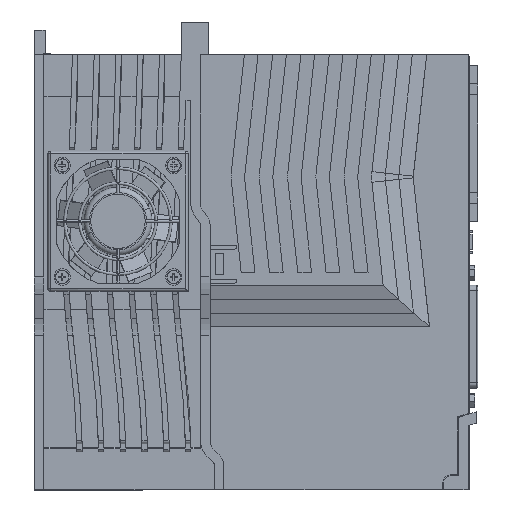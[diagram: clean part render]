
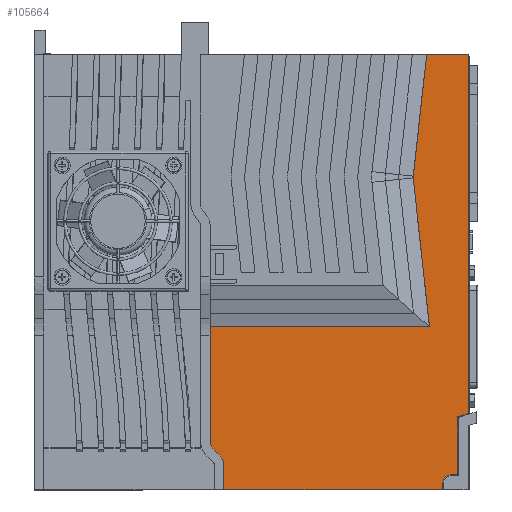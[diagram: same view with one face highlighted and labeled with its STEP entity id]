
A CAD part, top view. The second image highlights one B-rep face of the part: STEP entity #105664.
In plain terms, the highlighted planar face has unit normal (0, 0, 1).
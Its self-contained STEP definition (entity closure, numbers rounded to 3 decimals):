
#575 = CIRCLE ( 'NONE', #43142, 2.718 ) ;
#1021 = CARTESIAN_POINT ( 'NONE',  ( -15.4, 0., 41. ) ) ;
#1074 = CARTESIAN_POINT ( 'NONE',  ( -12.055, -67.01, 41. ) ) ;
#2867 = PLANE ( 'NONE',  #49525 ) ;
#3671 = EDGE_CURVE ( 'NONE', #104728, #73747, #62081, .T. ) ;
#6831 = ORIENTED_EDGE ( 'NONE', *, *, #120285, .T. ) ;
#8740 = DIRECTION ( 'NONE',  ( 0., 1., 0. ) ) ;
#8949 = VERTEX_POINT ( 'NONE', #106047 ) ;
#10354 = LINE ( 'NONE', #85360, #102690 ) ;
#10487 = EDGE_CURVE ( 'NONE', #31022, #114024, #66364, .T. ) ;
#10973 = CARTESIAN_POINT ( 'NONE',  ( -10.4, -70.727, 41. ) ) ;
#16931 = CARTESIAN_POINT ( 'NONE',  ( 79.5, -51.75, 41. ) ) ;
#17546 = VECTOR ( 'NONE', #132038, 1000. ) ;
#18181 = LINE ( 'NONE', #30817, #130625 ) ;
#18670 = VERTEX_POINT ( 'NONE', #16931 ) ;
#19696 = CIRCLE ( 'NONE', #48942, 5. ) ;
#20155 = VERTEX_POINT ( 'NONE', #31338 ) ;
#20541 = LINE ( 'NONE', #33218, #94996 ) ;
#20997 = VERTEX_POINT ( 'NONE', #10973 ) ;
#21307 = CARTESIAN_POINT ( 'NONE',  ( 59.311, 35.298, 41. ) ) ;
#22063 = DIRECTION ( 'NONE',  ( 1., 0., 0. ) ) ;
#22625 = DIRECTION ( 'NONE',  ( -1., 0., 0. ) ) ;
#24667 = VECTOR ( 'NONE', #137249, 1000. ) ;
#28885 = EDGE_CURVE ( 'NONE', #18670, #29722, #84033, .T. ) ;
#29589 = EDGE_CURVE ( 'NONE', #136265, #126577, #18181, .T. ) ;
#29722 = VERTEX_POINT ( 'NONE', #134953 ) ;
#30817 = CARTESIAN_POINT ( 'NONE',  ( -19., -80., 41. ) ) ;
#31022 = VERTEX_POINT ( 'NONE', #76001 ) ;
#31102 = CARTESIAN_POINT ( 'NONE',  ( 65.278, -20., 41. ) ) ;
#31338 = CARTESIAN_POINT ( 'NONE',  ( 64.278, 80., 41. ) ) ;
#32237 = EDGE_CURVE ( 'NONE', #29722, #20155, #20541, .T. ) ;
#32411 = CARTESIAN_POINT ( 'NONE',  ( 0., 0., 41. ) ) ;
#33218 = CARTESIAN_POINT ( 'NONE',  ( 80., 80., 41. ) ) ;
#34193 = VECTOR ( 'NONE', #84785, 1000. ) ;
#34496 = FACE_OUTER_BOUND ( 'NONE', #70599, .T. ) ;
#35016 = CARTESIAN_POINT ( 'NONE',  ( -15.4, -70.727, 41. ) ) ;
#36249 = EDGE_CURVE ( 'NONE', #114024, #8949, #98109, .T. ) ;
#36509 = CARTESIAN_POINT ( 'NONE',  ( -38.715, -43.017, 41. ) ) ;
#37627 = DIRECTION ( 'NONE',  ( -1., 0., 0. ) ) ;
#38397 = ORIENTED_EDGE ( 'NONE', *, *, #51893, .F. ) ;
#39013 = LINE ( 'NONE', #46767, #73756 ) ;
#40733 = CARTESIAN_POINT ( 'NONE',  ( -10.4, 0., 41. ) ) ;
#42354 = EDGE_CURVE ( 'NONE', #8949, #126577, #138614, .T. ) ;
#42395 = ORIENTED_EDGE ( 'NONE', *, *, #130927, .F. ) ;
#42946 = ORIENTED_EDGE ( 'NONE', *, *, #42354, .F. ) ;
#43142 = AXIS2_PLACEMENT_3D ( 'NONE', #44236, #117002, #63216 ) ;
#43259 = CARTESIAN_POINT ( 'NONE',  ( 73.417, -77.765, 41. ) ) ;
#44236 = CARTESIAN_POINT ( 'NONE',  ( 62.012, 34.998, 41. ) ) ;
#44856 = CARTESIAN_POINT ( 'NONE',  ( 70.117, -77.765, 41. ) ) ;
#46767 = CARTESIAN_POINT ( 'NONE',  ( 66., -20., 41. ) ) ;
#47597 = DIRECTION ( 'NONE',  ( 0., 0., -1. ) ) ;
#47869 = CARTESIAN_POINT ( 'NONE',  ( -10.4, -80., 41. ) ) ;
#48705 = EDGE_CURVE ( 'NONE', #20155, #106429, #109300, .T. ) ;
#48942 = AXIS2_PLACEMENT_3D ( 'NONE', #75360, #118002, #22063 ) ;
#49028 = ORIENTED_EDGE ( 'NONE', *, *, #114582, .T. ) ;
#49263 = VERTEX_POINT ( 'NONE', #31102 ) ;
#49361 = ORIENTED_EDGE ( 'NONE', *, *, #32237, .T. ) ;
#49525 = AXIS2_PLACEMENT_3D ( 'NONE', #32411, #97531, #107335 ) ;
#51801 = DIRECTION ( 'NONE',  ( 0.108, -0.994, 0. ) ) ;
#51893 = EDGE_CURVE ( 'NONE', #82267, #31022, #64542, .T. ) ;
#52435 = VERTEX_POINT ( 'NONE', #55619 ) ;
#53294 = ORIENTED_EDGE ( 'NONE', *, *, #28885, .T. ) ;
#54300 = AXIS2_PLACEMENT_3D ( 'NONE', #35016, #47597, #88919 ) ;
#54904 = ORIENTED_EDGE ( 'NONE', *, *, #132504, .T. ) ;
#55619 = CARTESIAN_POINT ( 'NONE',  ( -13.745, -65.49, 41. ) ) ;
#57928 = VECTOR ( 'NONE', #107914, 1000. ) ;
#59973 = VECTOR ( 'NONE', #79223, 1000. ) ;
#60071 = VECTOR ( 'NONE', #116695, 1000. ) ;
#62081 = LINE ( 'NONE', #1021, #82364 ) ;
#62937 = DIRECTION ( 'NONE',  ( 0., 0., 1. ) ) ;
#63216 = DIRECTION ( 'NONE',  ( 1., 0., 0. ) ) ;
#64262 = LINE ( 'NONE', #73357, #60071 ) ;
#64542 = LINE ( 'NONE', #73629, #110078 ) ;
#66364 = LINE ( 'NONE', #90119, #17546 ) ;
#68704 = VERTEX_POINT ( 'NONE', #126219 ) ;
#70599 = EDGE_LOOP ( 'NONE', ( #42946, #107831, #100257, #38397, #42395, #125445, #53294, #49361, #97347, #54904, #85123, #49028, #100857, #75272, #128786, #6831, #72122, #77847 ) ) ;
#71343 = VECTOR ( 'NONE', #120437, 1000. ) ;
#72122 = ORIENTED_EDGE ( 'NONE', *, *, #104038, .F. ) ;
#73357 = CARTESIAN_POINT ( 'NONE',  ( 79.5, 0., 41. ) ) ;
#73629 = CARTESIAN_POINT ( 'NONE',  ( 75.697, -53.363, 41. ) ) ;
#73747 = VERTEX_POINT ( 'NONE', #119443 ) ;
#73756 = VECTOR ( 'NONE', #37627, 1000. ) ;
#75272 = ORIENTED_EDGE ( 'NONE', *, *, #124317, .F. ) ;
#75360 = CARTESIAN_POINT ( 'NONE',  ( -10.4, -61.773, 41. ) ) ;
#76001 = CARTESIAN_POINT ( 'NONE',  ( 75.697, -74.465, 41. ) ) ;
#77847 = ORIENTED_EDGE ( 'NONE', *, *, #29589, .T. ) ;
#79223 = DIRECTION ( 'NONE',  ( -0.743, 0.669, 0. ) ) ;
#82267 = VERTEX_POINT ( 'NONE', #103789 ) ;
#82364 = VECTOR ( 'NONE', #8740, 1000. ) ;
#83572 = CARTESIAN_POINT ( 'NONE',  ( 70.117, -80., 41. ) ) ;
#84033 = LINE ( 'NONE', #116849, #132568 ) ;
#84142 = CARTESIAN_POINT ( 'NONE',  ( 82.45, -50.987, 41. ) ) ;
#84785 = DIRECTION ( 'NONE',  ( 0., -1., 0. ) ) ;
#85123 = ORIENTED_EDGE ( 'NONE', *, *, #104250, .T. ) ;
#85360 = CARTESIAN_POINT ( 'NONE',  ( 59.286, 34.922, 41. ) ) ;
#86218 = LINE ( 'NONE', #84142, #57928 ) ;
#88919 = DIRECTION ( 'NONE',  ( 1., 0., 0. ) ) ;
#90119 = CARTESIAN_POINT ( 'NONE',  ( 75.997, -74.465, 41. ) ) ;
#91405 = AXIS2_PLACEMENT_3D ( 'NONE', #43259, #62937, #117420 ) ;
#94996 = VECTOR ( 'NONE', #22625, 1000. ) ;
#95250 = DIRECTION ( 'NONE',  ( 1., 0., 0. ) ) ;
#96373 = EDGE_CURVE ( 'NONE', #111110, #52435, #132338, .T. ) ;
#96749 = LINE ( 'NONE', #40733, #24667 ) ;
#96860 = EDGE_CURVE ( 'NONE', #18670, #125942, #64262, .T. ) ;
#97347 = ORIENTED_EDGE ( 'NONE', *, *, #48705, .T. ) ;
#97531 = DIRECTION ( 'NONE',  ( 0., 0., 1. ) ) ;
#98109 = CIRCLE ( 'NONE', #91405, 3.3 ) ;
#100257 = ORIENTED_EDGE ( 'NONE', *, *, #10487, .F. ) ;
#100857 = ORIENTED_EDGE ( 'NONE', *, *, #3671, .F. ) ;
#102690 = VECTOR ( 'NONE', #51801, 1000. ) ;
#103444 = CIRCLE ( 'NONE', #54300, 5. ) ;
#103789 = CARTESIAN_POINT ( 'NONE',  ( 75.697, -53.144, 41. ) ) ;
#104038 = EDGE_CURVE ( 'NONE', #136265, #20997, #96749, .T. ) ;
#104250 = EDGE_CURVE ( 'NONE', #68704, #49263, #10354, .T. ) ;
#104728 = VERTEX_POINT ( 'NONE', #105237 ) ;
#105237 = CARTESIAN_POINT ( 'NONE',  ( -15.4, -61.773, 41. ) ) ;
#105664 = ADVANCED_FACE ( 'NONE', ( #34496 ), #2867, .T. ) ;
#106047 = CARTESIAN_POINT ( 'NONE',  ( 70.117, -77.765, 41. ) ) ;
#106429 = VERTEX_POINT ( 'NONE', #21307 ) ;
#107128 = DIRECTION ( 'NONE',  ( 0., 1., 0. ) ) ;
#107335 = DIRECTION ( 'NONE',  ( 1., 0., 0. ) ) ;
#107831 = ORIENTED_EDGE ( 'NONE', *, *, #36249, .F. ) ;
#107914 = DIRECTION ( 'NONE',  ( -0.953, -0.304, 0. ) ) ;
#109300 = LINE ( 'NONE', #117667, #71343 ) ;
#110078 = VECTOR ( 'NONE', #116278, 1000. ) ;
#111110 = VERTEX_POINT ( 'NONE', #1074 ) ;
#114024 = VERTEX_POINT ( 'NONE', #128446 ) ;
#114582 = EDGE_CURVE ( 'NONE', #49263, #73747, #39013, .T. ) ;
#116278 = DIRECTION ( 'NONE',  ( 0., -1., 0. ) ) ;
#116695 = DIRECTION ( 'NONE',  ( 0., -1., 0. ) ) ;
#116849 = CARTESIAN_POINT ( 'NONE',  ( 79.5, 80., 41. ) ) ;
#117002 = DIRECTION ( 'NONE',  ( 0., 0., 1. ) ) ;
#117420 = DIRECTION ( 'NONE',  ( 1., 0., 0. ) ) ;
#117667 = CARTESIAN_POINT ( 'NONE',  ( 64.287, 80.079, 41. ) ) ;
#118002 = DIRECTION ( 'NONE',  ( 0., 0., -1. ) ) ;
#119443 = CARTESIAN_POINT ( 'NONE',  ( -15.4, -20., 41. ) ) ;
#120285 = EDGE_CURVE ( 'NONE', #111110, #20997, #103444, .T. ) ;
#120437 = DIRECTION ( 'NONE',  ( -0.11, -0.994, 0. ) ) ;
#122561 = CARTESIAN_POINT ( 'NONE',  ( 79.5, -51.929, 41. ) ) ;
#124317 = EDGE_CURVE ( 'NONE', #52435, #104728, #19696, .T. ) ;
#125445 = ORIENTED_EDGE ( 'NONE', *, *, #96860, .F. ) ;
#125942 = VERTEX_POINT ( 'NONE', #122561 ) ;
#126219 = CARTESIAN_POINT ( 'NONE',  ( 59.31, 34.703, 41. ) ) ;
#126577 = VERTEX_POINT ( 'NONE', #83572 ) ;
#128446 = CARTESIAN_POINT ( 'NONE',  ( 73.417, -74.465, 41. ) ) ;
#128786 = ORIENTED_EDGE ( 'NONE', *, *, #96373, .F. ) ;
#130625 = VECTOR ( 'NONE', #95250, 1000. ) ;
#130927 = EDGE_CURVE ( 'NONE', #125942, #82267, #86218, .T. ) ;
#132038 = DIRECTION ( 'NONE',  ( -1., 0., 0. ) ) ;
#132338 = LINE ( 'NONE', #36509, #59973 ) ;
#132504 = EDGE_CURVE ( 'NONE', #106429, #68704, #575, .T. ) ;
#132568 = VECTOR ( 'NONE', #107128, 1000. ) ;
#134953 = CARTESIAN_POINT ( 'NONE',  ( 79.5, 80., 41. ) ) ;
#136265 = VERTEX_POINT ( 'NONE', #47869 ) ;
#137249 = DIRECTION ( 'NONE',  ( 0., 1., 0. ) ) ;
#138614 = LINE ( 'NONE', #44856, #34193 ) ;
